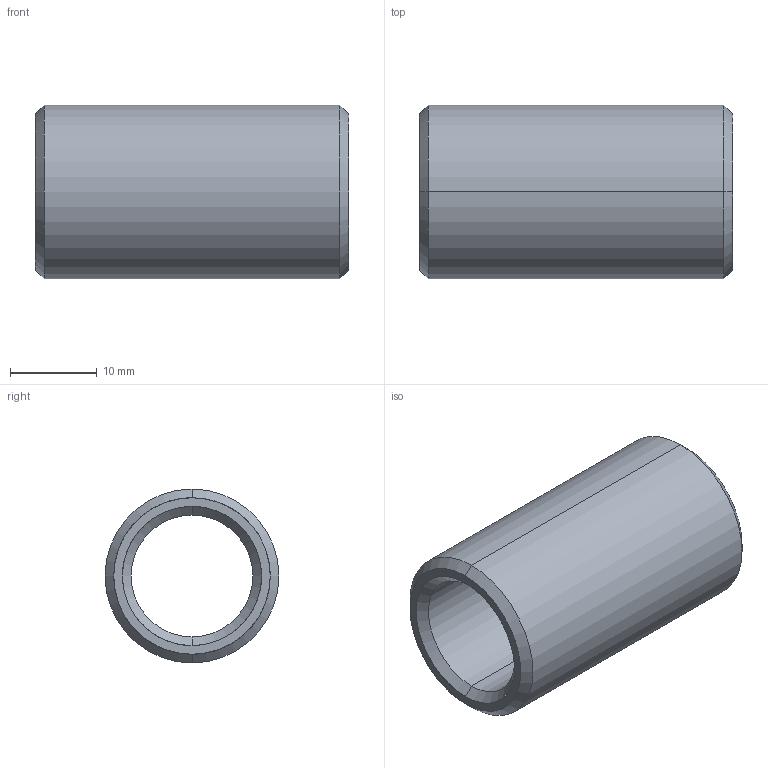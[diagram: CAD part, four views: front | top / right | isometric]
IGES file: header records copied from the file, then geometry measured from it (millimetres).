
Start section: START RECORD GO HERE.
Global section: file name: 352-14X36.igs; native system: DASSAULT SYSTEMES CATIA V5 R20 - www.3ds.com; preprocessor: CATIA Version 5 Release 20 ; author: Utente; organization: NB04-ASUS; date: 20210410.111516; units: millimetre
Bounding box: 36 x 20 x 20 mm (x, y, z)
Surface area: 4046.6 mm2 (no closed solid volume)
Topology: 0 solids, 0 shells, 14 faces, 88 edges, 88 vertices
Faces by surface type: revolution 12, plane 2
